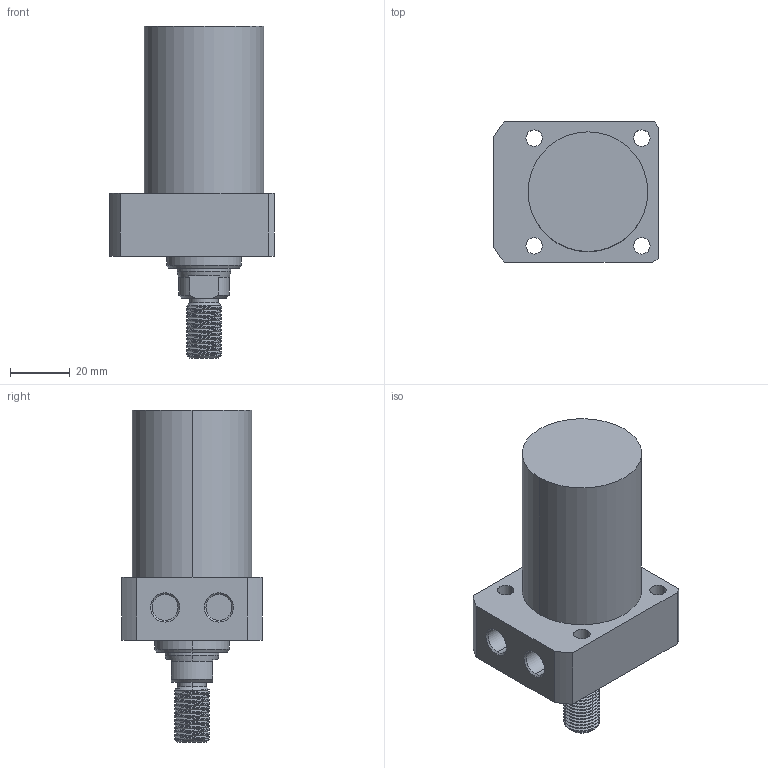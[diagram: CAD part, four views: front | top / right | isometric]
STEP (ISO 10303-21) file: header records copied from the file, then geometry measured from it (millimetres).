
FILE_DESCRIPTION (( 'STEP AP214' ), '1' );
FILE_NAME ('CLLR-040CT-045.STEP', '2020-01-08T10:54:23', ( 'Windows' ), ( 'Microsoft' ), 'SwSTEP 2.0', 'SolidWorks 2015', '' );
FILE_SCHEMA (( 'AUTOMOTIVE_DESIGN' ));
Length unit declared in the file: millimetre
Products named in the file (1): CLLR-040CT-045
Bounding box: 55 x 47 x 111 mm (x, y, z)
Volume: 126412.7 mm3; surface area: 20373 mm2
Topology: 1 solids, 1 shells, 93 faces, 237 edges, 154 vertices
Faces by surface type: cylinder 56, plane 20, cone 15, bspline 2
Entity records: 4515 total; most frequent: CARTESIAN_POINT 2302, ORIENTED_EDGE 474, DIRECTION 424, EDGE_CURVE 237, AXIS2_PLACEMENT_3D 166, VERTEX_POINT 154, EDGE_LOOP 109, ADVANCED_FACE 93
